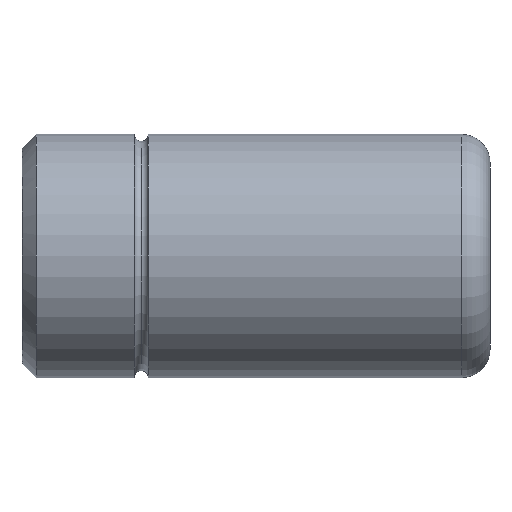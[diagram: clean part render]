
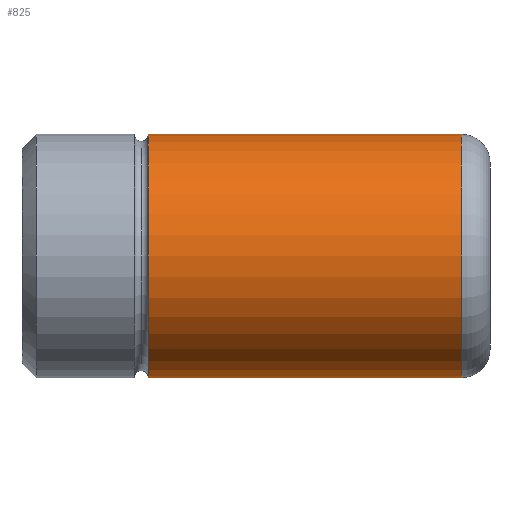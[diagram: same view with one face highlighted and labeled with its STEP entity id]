
A CAD part, front view. The second image highlights one B-rep face of the part: STEP entity #825.
In plain terms, the highlighted cylindrical face has radius 13 mm (diameter 26 mm), a partial arc.
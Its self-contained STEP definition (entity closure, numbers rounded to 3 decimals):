
#641=CARTESIAN_POINT('Vertex',(13.5,0.,13.)) ;
#648=CARTESIAN_POINT('Vertex',(13.5,0.,-13.)) ;
#674=CARTESIAN_POINT('Axis2P3D Location',(13.5,0.,0.)) ;
#678=CARTESIAN_POINT('Vertex',(13.5,-13.,0.)) ;
#681=CARTESIAN_POINT('Axis2P3D Location',(13.5,0.,0.)) ;
#765=CARTESIAN_POINT('Line Origine',(50.,0.,13.)) ;
#769=CARTESIAN_POINT('Vertex',(47.,0.,13.)) ;
#783=CARTESIAN_POINT('Vertex',(47.,0.,-13.)) ;
#786=CARTESIAN_POINT('Line Origine',(50.,0.,-13.)) ;
#800=CARTESIAN_POINT('Axis2P3D Location',(50.,0.,0.)) ;
#805=CARTESIAN_POINT('Axis2P3D Location',(47.,0.,0.)) ;
#809=CARTESIAN_POINT('Vertex',(47.,-13.,0.)) ;
#812=CARTESIAN_POINT('Axis2P3D Location',(47.,0.,0.)) ;
#675=DIRECTION('Axis2P3D Direction',(1.,0.,0.)) ;
#682=DIRECTION('Axis2P3D Direction',(1.,0.,0.)) ;
#766=DIRECTION('Vector Direction',(-1.,0.,0.)) ;
#787=DIRECTION('Vector Direction',(-1.,0.,0.)) ;
#801=DIRECTION('Axis2P3D Direction',(-1.,-0.,-0.)) ;
#802=DIRECTION('Axis2P3D XDirection',(0.,0.,-1.)) ;
#806=DIRECTION('Axis2P3D Direction',(-1.,-0.,-0.)) ;
#813=DIRECTION('Axis2P3D Direction',(-1.,-0.,-0.)) ;
#676=AXIS2_PLACEMENT_3D('Circle Axis2P3D',#674,#675,$) ;
#683=AXIS2_PLACEMENT_3D('Circle Axis2P3D',#681,#682,$) ;
#803=AXIS2_PLACEMENT_3D('Cylinder Axis2P3D',#800,#801,#802) ;
#807=AXIS2_PLACEMENT_3D('Circle Axis2P3D',#805,#806,$) ;
#814=AXIS2_PLACEMENT_3D('Circle Axis2P3D',#812,#813,$) ;
#818=ORIENTED_EDGE('',*,*,#790,.T.) ;
#819=ORIENTED_EDGE('',*,*,#811,.F.) ;
#820=ORIENTED_EDGE('',*,*,#816,.F.) ;
#821=ORIENTED_EDGE('',*,*,#771,.T.) ;
#822=ORIENTED_EDGE('',*,*,#685,.T.) ;
#823=ORIENTED_EDGE('',*,*,#680,.T.) ;
#767=VECTOR('Line Direction',#766,1.) ;
#788=VECTOR('Line Direction',#787,1.) ;
#825=ADVANCED_FACE('348-16 x 50',(#824),#804,.T.) ;
#677=CIRCLE('generated circle',#676,13.) ;
#684=CIRCLE('generated circle',#683,13.) ;
#808=CIRCLE('generated circle',#807,13.) ;
#815=CIRCLE('generated circle',#814,13.) ;
#804=CYLINDRICAL_SURFACE('generated cylinder',#803,13.) ;
#680=EDGE_CURVE('',#679,#649,#677,.T.) ;
#685=EDGE_CURVE('',#642,#679,#684,.T.) ;
#771=EDGE_CURVE('',#770,#642,#768,.T.) ;
#790=EDGE_CURVE('',#649,#784,#789,.F.) ;
#811=EDGE_CURVE('',#810,#784,#808,.F.) ;
#816=EDGE_CURVE('',#770,#810,#815,.F.) ;
#817=EDGE_LOOP('',(#818,#819,#820,#821,#822,#823)) ;
#824=FACE_OUTER_BOUND('',#817,.T.) ;
#768=LINE('Line',#765,#767) ;
#789=LINE('Line',#786,#788) ;
#642=VERTEX_POINT('',#641) ;
#649=VERTEX_POINT('',#648) ;
#679=VERTEX_POINT('',#678) ;
#770=VERTEX_POINT('',#769) ;
#784=VERTEX_POINT('',#783) ;
#810=VERTEX_POINT('',#809) ;
